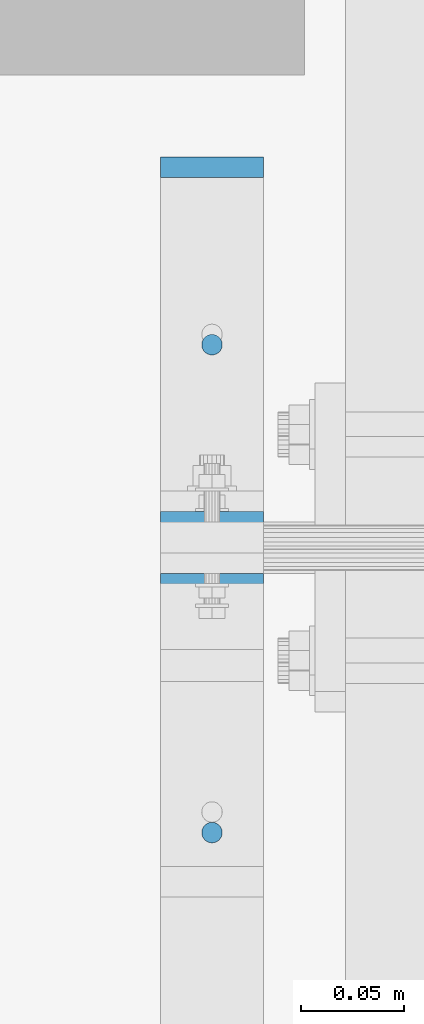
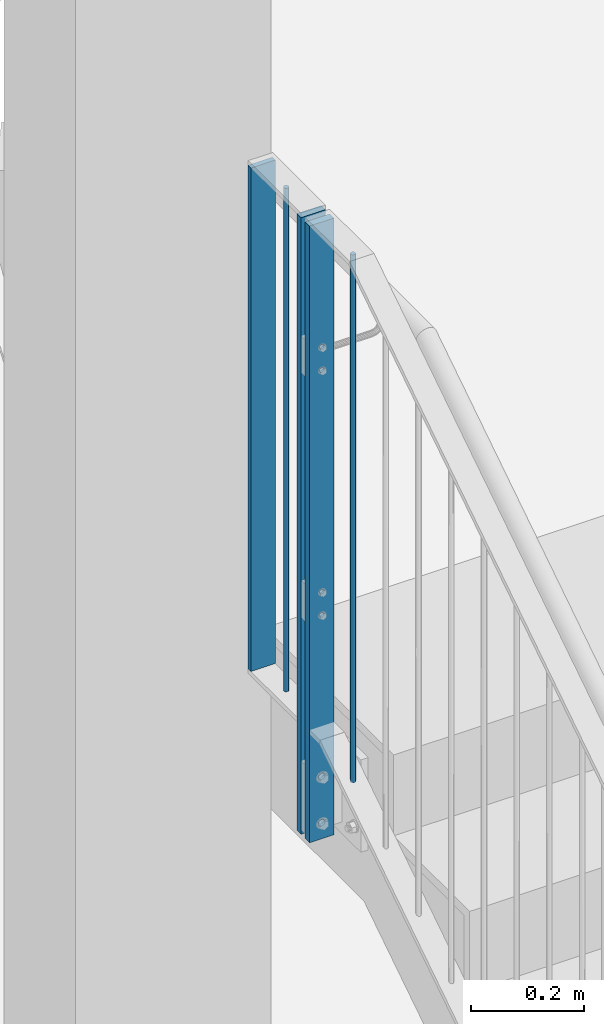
# One storey, part 53 of 296: 5 columns, 12 openings.
"""IFC2X3 building model written with IfcOpenShell, lengths in millimetres."""

from ifc_helpers import new_model, entity, si_unit, converted_unit, frame, frame_2d, origin, origin_with_axes, origin_2d, place, context, project, spatial, rectangle, circle, extrude, material, element, save


model = new_model("IFC2X3")

# Units and contexts
model_context = context("Model", 3, precision=1e-09, world=origin_with_axes())
ifc_project = project(units=[si_unit("LENGTHUNIT", "METRE", prefix="MILLI"), si_unit("AREAUNIT", "SQUARE_METRE"), si_unit("VOLUMEUNIT", "CUBIC_METRE"), converted_unit("PLANEANGLEUNIT", "DEGREE", entity("IfcPlaneAngleMeasure", 0.01745329), si_unit("PLANEANGLEUNIT", "RADIAN"), dimensions=[0, 0, 0, 0, 0, 0, 0])], contexts=[model_context])

# Site, building, storey
site_placement = place(None, origin_with_axes())
site = spatial("IfcSite", under=ifc_project, at=site_placement, Name="TZD-S?d | Treppenhausgel?nder", CompositionType="ELEMENT")
building_placement = place(site_placement, origin_with_axes())
building = spatial("IfcBuilding", under=site, at=building_placement, Name="Struktur 1", CompositionType="ELEMENT")
storey_placement = place(building_placement, origin_with_axes())
storey = spatial("IfcBuildingStorey", under=building, at=storey_placement, Name="Default Storey", CompositionType="ELEMENT", Elevation=0.0)

# Column, openings
ifc_material = material(Name="S235JR")
column_1_placement = place(None, frame((-45.0, -475.0, 2204.999), z_axis=(0.0, 0.0, -1.0), x_axis=(0.0, -1.0, 0.0)))
column_1 = element("IfcColumn", 1, at=column_1_placement, inside=storey, material=ifc_material, Name="-", ObjectType="-", context=model_context, shape_type="SweptSolid", body=[
    extrude(rectangle(XDim=15.0, YDim=50.0, at=origin_2d()), origin(), (0.0, 0.0, -1.0), 1334.999),
])
opening_1_placement = place(column_1_placement, frame((-8.0, 0.0, -1039.999999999), z_axis=(1.0, 0.0, 0.0), x_axis=(0.0, -1.0, 0.0)))
element("IfcOpeningElement", 2, at=opening_1_placement, cuts=column_1, ObjectType="Opening", context=model_context, shape_type="SweptSolid", body=[
    extrude(circle(Radius=5.001, at=frame_2d((0.0, 25.0), x_axis=(1.0, 0.0))), origin(), (0.0, 0.0, 1.0), 16.0),
])
opening_2_placement = place(column_1_placement, frame((-8.0, 0.0, -1039.999999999), z_axis=(1.0, 0.0, 0.0), x_axis=(0.0, -1.0, 0.0)))
element("IfcOpeningElement", 3, at=opening_2_placement, cuts=column_1, ObjectType="Opening", context=model_context, shape_type="SweptSolid", body=[
    extrude(circle(Radius=5.001, at=frame_2d((0.0, -25.0), x_axis=(1.0, 0.0))), origin(), (0.0, 0.0, 1.0), 16.0),
])
opening_3_placement = place(column_1_placement, frame((-8.0, 0.0, -85.0), z_axis=(1.0, 0.0, 0.0), x_axis=(0.0, -1.0, 0.0)))
element("IfcOpeningElement", 4, at=opening_3_placement, cuts=column_1, ObjectType="Opening", context=model_context, shape_type="SweptSolid", body=[
    extrude(circle(Radius=7.001, at=frame_2d((0.0, 50.0), x_axis=(1.0, 0.0))), origin(), (0.0, 0.0, 1.0), 16.0),
])
opening_4_placement = place(column_1_placement, frame((-8.0, 0.0, -85.0), z_axis=(1.0, 0.0, 0.0), x_axis=(0.0, -1.0, 0.0)))
element("IfcOpeningElement", 5, at=opening_4_placement, cuts=column_1, ObjectType="Opening", context=model_context, shape_type="SweptSolid", body=[
    extrude(circle(Radius=7.001, at=frame_2d((0.0, -50.0), x_axis=(1.0, 0.0))), origin(), (0.0, 0.0, 1.0), 16.0),
])
opening_5_placement = place(column_1_placement, frame((-8.0, 0.0, -509.999999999), z_axis=(1.0, 0.0, 0.0), x_axis=(0.0, -1.0, 0.0)))
element("IfcOpeningElement", 6, at=opening_5_placement, cuts=column_1, ObjectType="Opening", context=model_context, shape_type="SweptSolid", body=[
    extrude(circle(Radius=5.001, at=frame_2d((0.0, 25.0), x_axis=(1.0, 0.0))), origin(), (0.0, 0.0, 1.0), 16.0),
])
opening_6_placement = place(column_1_placement, frame((-8.0, 0.0, -509.999999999), z_axis=(1.0, 0.0, 0.0), x_axis=(0.0, -1.0, 0.0)))
element("IfcOpeningElement", 7, at=opening_6_placement, cuts=column_1, ObjectType="Opening", context=model_context, shape_type="SweptSolid", body=[
    extrude(circle(Radius=5.001, at=frame_2d((0.0, -25.0), x_axis=(1.0, 0.0))), origin(), (0.0, 0.0, 1.0), 16.0),
])

column_2_placement = place(None, frame((-45.0, -505.0, 2204.999), z_axis=(0.0, 0.0, 1.0), x_axis=(0.0, 1.0, 0.0)))
column_2 = element("IfcColumn", 8, at=column_2_placement, inside=storey, material=ifc_material, Name="-", ObjectType="-", context=model_context, shape_type="SweptSolid", body=[
    extrude(rectangle(XDim=15.0, YDim=50.0, at=origin_2d()), origin(), (0.0, 0.0, 1.0), 1334.999),
])
opening_7_placement = place(column_2_placement, frame((8.0, 0.0, 1039.999999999), z_axis=(-1.0, 0.0, 0.0), x_axis=(0.0, -1.0, 0.0)))
element("IfcOpeningElement", 9, at=opening_7_placement, cuts=column_2, ObjectType="Opening", context=model_context, shape_type="SweptSolid", body=[
    extrude(circle(Radius=5.001, at=frame_2d((0.0, 25.0), x_axis=(1.0, 0.0))), origin(), (0.0, 0.0, 1.0), 16.0),
])
opening_8_placement = place(column_2_placement, frame((8.0, 0.0, 1039.999999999), z_axis=(-1.0, 0.0, 0.0), x_axis=(0.0, -1.0, 0.0)))
element("IfcOpeningElement", 10, at=opening_8_placement, cuts=column_2, ObjectType="Opening", context=model_context, shape_type="SweptSolid", body=[
    extrude(circle(Radius=5.001, at=frame_2d((0.0, -25.0), x_axis=(1.0, 0.0))), origin(), (0.0, 0.0, 1.0), 16.0),
])
opening_9_placement = place(column_2_placement, frame((8.0, 0.0, 85.0), z_axis=(-1.0, 0.0, 0.0), x_axis=(0.0, -1.0, 0.0)))
element("IfcOpeningElement", 11, at=opening_9_placement, cuts=column_2, ObjectType="Opening", context=model_context, shape_type="SweptSolid", body=[
    extrude(circle(Radius=7.001, at=frame_2d((0.0, 50.0), x_axis=(1.0, 0.0))), origin(), (0.0, 0.0, 1.0), 16.0),
])
opening_10_placement = place(column_2_placement, frame((8.0, 0.0, 85.0), z_axis=(-1.0, 0.0, 0.0), x_axis=(0.0, -1.0, 0.0)))
element("IfcOpeningElement", 12, at=opening_10_placement, cuts=column_2, ObjectType="Opening", context=model_context, shape_type="SweptSolid", body=[
    extrude(circle(Radius=7.001, at=frame_2d((0.0, -50.0), x_axis=(1.0, 0.0))), origin(), (0.0, 0.0, 1.0), 16.0),
])
opening_11_placement = place(column_2_placement, frame((8.0, 0.0, 509.999999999), z_axis=(-1.0, 0.0, 0.0), x_axis=(0.0, -1.0, 0.0)))
element("IfcOpeningElement", 13, at=opening_11_placement, cuts=column_2, ObjectType="Opening", context=model_context, shape_type="SweptSolid", body=[
    extrude(circle(Radius=5.001, at=frame_2d((0.0, 25.0), x_axis=(1.0, 0.0))), origin(), (0.0, 0.0, 1.0), 16.0),
])
opening_12_placement = place(column_2_placement, frame((8.0, 0.0, 509.999999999), z_axis=(-1.0, 0.0, 0.0), x_axis=(0.0, -1.0, 0.0)))
element("IfcOpeningElement", 14, at=opening_12_placement, cuts=column_2, ObjectType="Opening", context=model_context, shape_type="SweptSolid", body=[
    extrude(circle(Radius=5.001, at=frame_2d((0.0, -25.0), x_axis=(1.0, 0.0))), origin(), (0.0, 0.0, 1.0), 16.0),
])

# Columns
column_3_placement = place(None, frame((-45.0, -623.6111111, 2396.322348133), z_axis=(0.0, 0.0, 1.0), x_axis=(0.0, 1.0, 0.0)))
element("IfcColumn", 15, at=column_3_placement, inside=storey, material=ifc_material, Name="-", ObjectType="-", context=model_context, shape_type="SweptSolid", body=[
    extrude(circle(Radius=5.0, at=origin_2d()), origin(), (0.0, 0.0, 1.0), 1143.675651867),
])
column_4_placement = place(None, frame((-45.0, -386.25, 2449.998), z_axis=(0.0, 0.0, 1.0), x_axis=(0.0, 1.0, 0.0)))
element("IfcColumn", 16, at=column_4_placement, inside=storey, material=ifc_material, Name="-", ObjectType="-", context=model_context, shape_type="SweptSolid", body=[
    extrude(circle(Radius=5.0, at=origin_2d()), origin(), (0.0, 0.0, 1.0), 1090.0),
])
column_5_placement = place(None, frame((-45.0, -300.0, 2449.998), z_axis=(0.0, 0.0, 1.0), x_axis=(0.0, 1.0, 0.0)))
element("IfcColumn", 17, at=column_5_placement, inside=storey, material=ifc_material, Name="-", ObjectType="-", context=model_context, shape_type="SweptSolid", body=[
    extrude(rectangle(XDim=10.0, YDim=50.0, at=origin_2d()), origin(), (0.0, 0.0, 1.0), 1090.0),
])

save(model, "model.ifc")
